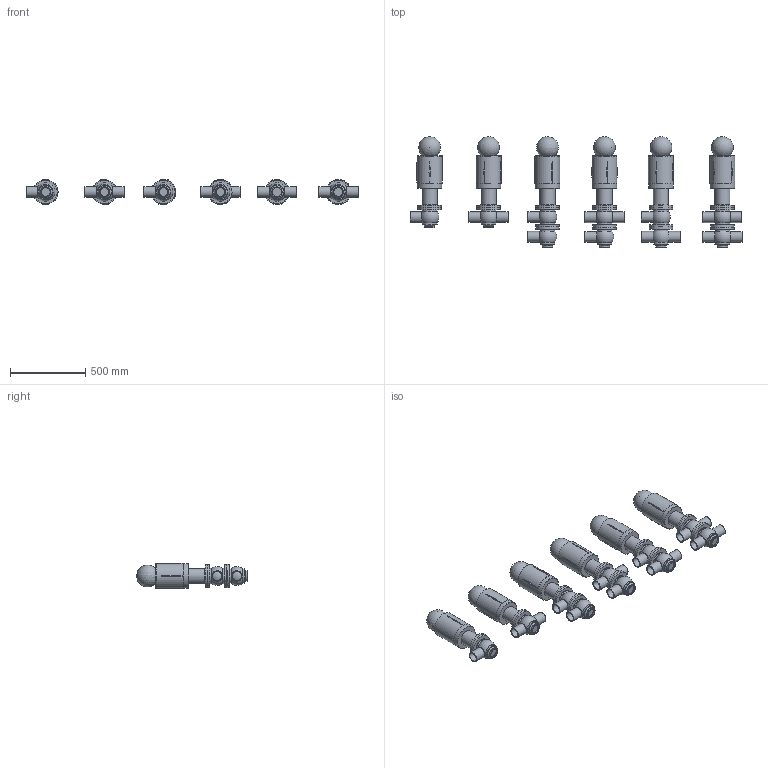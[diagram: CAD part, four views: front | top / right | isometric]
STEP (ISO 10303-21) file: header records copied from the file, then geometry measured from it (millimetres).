
FILE_DESCRIPTION(/* description */ (''),/* implementation_level */ '2;1');
FILE_NAME(/* name */ 'C:\Users\marz-m\Desktop\PDF\BBZQ 3D STEP\BBZQ-DN65-CIL.156.stp',/* time_stamp */ '2018-04-13T15:19:32+02:00',/* author */ ('marz-m'),/* organization */ (''),/* preprocessor_version */ 'ST-DEVELOPER v17',/* originating_system */ 'Autodesk Inventor 2018',/* authorisation */ '');
FILE_SCHEMA (('AUTOMOTIVE_DESIGN { 1 0 10303 214 3 1 1 }'));
Length unit declared in the file: millimetre
Products named in the file (8): BBZQ-DN65-CIL.156; ASSEMBLAGGIO-DN65-CIL108--156; CIL156; SAGOMA-GIOTTO-; COR-INF-L-BBZQ-DN065-SALD; COR-SUP-L-BBZQ-DN065-SALD; COR-SUP-T-BBZQ-DN65; COR-INF-T-BBZQ-DN065-SALD
Assembly tree (28 placements, depth 2):
  BBZQ-DN65-CIL.156
    ASSEMBLAGGIO-DN65-CIL108--156  x6
    COR-INF-L-BBZQ-DN065-SALD  x3
    COR-INF-T-BBZQ-DN065-SALD  x3
    COR-SUP-L-BBZQ-DN065-SALD  x2
    COR-SUP-T-BBZQ-DN65  x2
    CIL156  x6
    SAGOMA-GIOTTO-  x6
Bounding box: 2204.92 x 734.47 x 172.04 mm (x, y, z)
Volume: 56388650.5 mm3; surface area: 3418479.3 mm2
Topology: 28 solids, 28 shells, 422 faces, 1030 edges, 756 vertices
Faces by surface type: cylinder 124, plane 115, cone 78, torus 50, sphere 31, bspline 24
Full cylindrical faces by diameter (mm): 20 x12, 60 x21, 70 x21, 76 x6, 77 x6, 99 x12, 100 x6, 101 x8, 154 x20, 164.5 x6, 166 x6
Entity records: 4166 total; most frequent: CARTESIAN_POINT 916, DIRECTION 727, ORIENTED_EDGE 534, AXIS2_PLACEMENT_3D 341, EDGE_CURVE 267, VERTEX_POINT 198, CIRCLE 196, EDGE_LOOP 143
